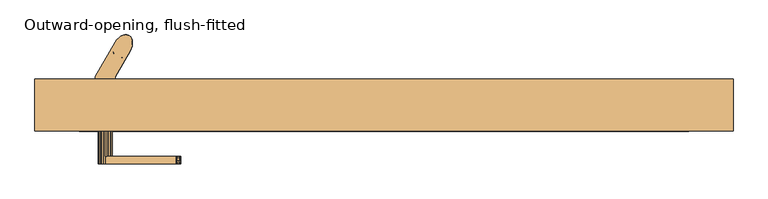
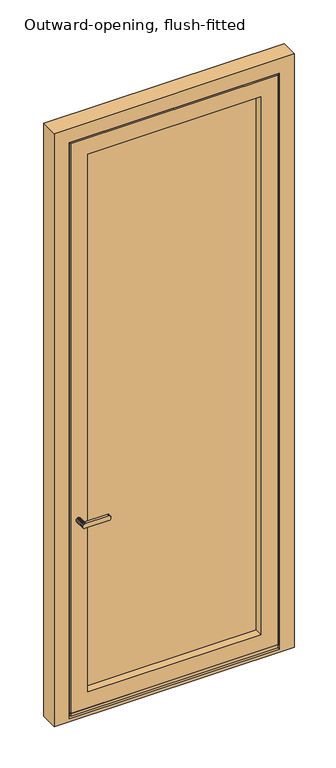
"""IFC4 building model written with IfcOpenShell, lengths in millimetres: door geometry, Outward-opening, flush-fitted."""

from ifc_helpers import new_model, si_unit, frame, origin, place, context, project, spatial, polyline, outline, extrude, faceted_brep, source, transform, mapped, element, save


def outward_opening_flush_fitted_95bfba12(model_context):
    return source(origin(), model_context, "Body", "SolidModel", [
        faceted_brep([(104.0438995, 600.0, 3143.5), (104.0438995, 604.0, 3143.5), (137.9561005, 604.0, 3143.5), (137.9561005, 600.0, 3143.5), (104.0438995, 604.0, 3173.5), (137.9561005, 604.0, 3173.5), (137.9561005, 604.0, 3177.5), (137.9561005, 600.0, 3177.5), (104.0438995, 600.0, 3177.5), (104.0438995, 604.0, 3177.5), (138.2706335, 663.2824248, 3173.5), (140.9909342, 667.257783, 3173.5), (144.212515, 670.6656309, 3173.5), (147.7738322, 673.3350848, 3173.5), (151.4963068, 675.1322872, 3173.5), (155.1932781, 675.9671188, 3173.5), (158.6793647, 675.7977178, 3173.5), (161.7797595, 674.6325784, 3173.5), (164.3389959, 672.5301259, 3173.5), (166.2287431, 669.5957857, 3173.5), (167.3542412, 665.9766982, 3173.5), (167.6590531, 661.8543393, 3173.5), (167.1278941, 657.4354214, 3173.5), (165.787399, 652.9415275, 3173.5), (163.7047856, 648.5980002, 3173.5), (164.3389959, 672.5301259, 3177.5), (161.7797595, 674.6325784, 3177.5), (158.6793647, 675.7977178, 3177.5), (155.1932781, 675.9671188, 3177.5), (151.4963068, 675.1322872, 3177.5), (147.7738322, 673.3350848, 3177.5), (144.212515, 670.6656309, 3177.5), (140.9909342, 667.257783, 3177.5), (138.2706335, 663.2824248, 3177.5), (163.7047856, 648.5980002, 3177.5), (165.787399, 652.9415275, 3177.5), (167.1278941, 657.4354214, 3177.5), (167.6590531, 661.8543393, 3177.5), (167.3542412, 665.9766982, 3177.5), (166.2287431, 669.5957857, 3177.5), (138.2706335, 663.2824248, 3175.9099144), (163.7047856, 648.5980002, 3175.0900851), (165.3743297, 671.1586458, 3175.5), (153.3597081, 675.6737838, 3175.5), (167.6445577, 661.4468931, 3175.5)], [[[0, 1, 2, 3]], [[2, 1, 4, 5]], [[3, 2, 5, 6, 7]], [[0, 3, 7, 8]], [[1, 0, 8, 9, 4]], [[5, 4, 10, 11, 12, 13, 14, 15, 16, 17, 18, 19, 20, 21, 22, 23, 24]], [[25, 26, 27, 28, 29, 30, 31, 32, 33, 9, 8, 7, 6, 34, 35, 36, 37, 38, 39]], [[4, 9, 33, 40, 10]], [[5, 24, 41, 34, 6]], [[40, 33, 32]], [[11, 10, 40]], [[39, 42, 25]], [[43, 12, 40]], [[40, 12, 11]], [[43, 15, 14]], [[30, 43, 31]], [[28, 43, 29]], [[17, 16, 43]], [[41, 24, 23]], [[35, 34, 41]], [[13, 43, 14]], [[32, 31, 40]], [[16, 15, 43]], [[20, 19, 42]], [[13, 12, 43]], [[35, 41, 44]], [[30, 29, 43]], [[28, 27, 43]], [[40, 31, 43]], [[26, 43, 27]], [[17, 43, 42]], [[19, 18, 42]], [[20, 44, 21]], [[23, 22, 41]], [[22, 44, 41]], [[21, 44, 22]], [[44, 36, 35]], [[42, 43, 26]], [[17, 42, 18]], [[42, 26, 25]], [[38, 42, 39]], [[44, 42, 38]], [[20, 42, 44]], [[38, 37, 44]], [[37, 36, 44]]]),
        faceted_brep([(112.5227579, 510.0, 1208.4772421), (115.0056846, 510.0, 1210.3824588), (117.897114, 510.0, 1211.5801281), (121.0, 510.0, 1211.9886308), (124.102886, 510.0, 1211.5801281), (126.9943154, 510.0, 1210.3824588), (129.4772421, 510.0, 1208.4772421), (131.3824588, 510.0, 1205.9943154), (132.5801281, 510.0, 1203.102886), (132.9886308, 510.0, 1200.0), (132.5801281, 510.0, 1196.897114), (131.3824588, 510.0, 1194.0056846), (129.4772421, 510.0, 1191.5227579), (126.9943154, 510.0, 1189.6175412), (124.102886, 510.0, 1188.4198719), (121.0, 510.0, 1188.0113692), (117.897114, 510.0, 1188.4198719), (115.0056846, 510.0, 1189.6175412), (112.5227579, 510.0, 1191.5227579), (110.6175412, 510.0, 1194.0056846), (109.4198719, 510.0, 1196.897114), (109.0113692, 510.0, 1200.0), (109.4198719, 510.0, 1203.102886), (110.6175412, 510.0, 1205.9943154), (124.102886, 466.5001175, 1188.4198719), (121.0, 466.5001175, 1188.0113692), (126.9943154, 466.5001175, 1189.6175412), (131.3824588, 466.5001175, 1194.0056846), (129.4772421, 466.5001175, 1191.5227579), (132.5801281, 466.5001175, 1196.897114), (132.9886308, 466.5001175, 1200.0), (132.5801281, 466.5001175, 1203.102886), (131.3824588, 466.5001175, 1205.9943154), (126.9943154, 466.5001175, 1210.3824588), (129.4772421, 466.5001175, 1208.4772421), (124.102886, 466.5001175, 1211.5801281), (121.0, 466.5001175, 1211.9886308), (117.897114, 454.0000305, 1211.5801281), (121.0, 454.0000305, 1211.9886308), (115.0056846, 454.0000305, 1210.3824588), (110.6175412, 454.0000305, 1205.9943154), (112.5227579, 454.0000305, 1208.4772421), (109.4198719, 454.0000305, 1203.102886), (109.0113692, 454.0000305, 1200.0), (109.4198719, 454.0000305, 1196.897114), (110.6175412, 454.0000305, 1194.0056846), (115.0056846, 454.0000305, 1189.6175412), (112.5227579, 454.0000305, 1191.5227579), (117.897114, 454.0000305, 1188.4198719), (121.0, 454.0000305, 1188.0113692), (242.6617926, 454.0000305, 1188.0113692), (244.2039971, 454.0000305, 1188.2417274), (245.6869356, 454.0000305, 1188.9239494), (247.0536195, 454.0000305, 1190.0318178), (248.2515279, 454.0000305, 1191.5227579), (249.234626, 454.0000305, 1193.3394736), (249.9651338, 454.0000305, 1195.4121496), (250.4149782, 454.0000305, 1197.6611342), (250.5668721, 454.0000305, 1200.0), (250.4149782, 454.0000305, 1202.3388658), (249.9651338, 454.0000305, 1204.5878504), (249.234626, 454.0000305, 1206.6605264), (248.2515279, 454.0000305, 1208.4772421), (247.0536195, 454.0000305, 1209.9681822), (245.6869356, 454.0000305, 1211.0760506), (244.2039971, 454.0000305, 1211.7582726), (242.6617926, 454.0000305, 1211.9886308), (249.9651338, 466.5001175, 1195.4121496), (249.234626, 466.5001175, 1193.3394736), (248.2515279, 466.5001175, 1191.5227579), (247.0536195, 466.5001175, 1190.0318178), (245.6869356, 466.5001175, 1188.9239494), (244.2039971, 466.5001175, 1188.2417274), (242.6617926, 466.5001175, 1188.0113692), (242.6617926, 466.5001175, 1211.9886308), (244.2039971, 466.5001175, 1211.7582726), (245.6869356, 466.5001175, 1211.0760506), (247.0536195, 466.5001175, 1209.9681822), (248.2515279, 466.5001175, 1208.4772421), (249.234626, 466.5001175, 1206.6605264), (249.9651338, 466.5001175, 1204.5878504), (250.4149782, 466.5001175, 1202.3388658), (250.5668721, 466.5001175, 1200.0), (250.4149782, 466.5001175, 1197.6611342), (242.6617926, 461.0756599, 1188.0113692), (246.3882212, 460.2500761, 1189.4269715), (248.7725017, 460.2500743, 1192.3944932), (250.226482, 460.250074, 1196.5198842), (249.6334503, 460.250074, 1205.6514014), (250.528807, 460.2500741, 1201.1750915), (244.9565161, 460.250074, 1211.4724044), (247.676722, 460.250074, 1209.2673369), (242.6617926, 460.250074, 1211.9886308)], [[[0, 1, 2, 3, 4, 5, 6, 7, 8, 9, 10, 11, 12, 13, 14, 15, 16, 17, 18, 19, 20, 21, 22, 23]], [[14, 24, 25, 15]], [[13, 26, 24, 14]], [[27, 28, 12, 11]], [[13, 12, 28, 26]], [[29, 27, 11, 10]], [[30, 29, 10, 9]], [[8, 31, 30, 9]], [[7, 32, 31, 8]], [[33, 34, 6, 5]], [[7, 6, 34, 32]], [[35, 33, 5, 4]], [[36, 35, 4, 3]], [[2, 37, 38, 36, 3]], [[1, 39, 37, 2]], [[23, 40, 41, 0]], [[1, 0, 41, 39]], [[22, 42, 40, 23]], [[21, 43, 42, 22]], [[20, 44, 43, 21]], [[19, 45, 44, 20]], [[17, 46, 47, 18]], [[19, 18, 47, 45]], [[16, 48, 46, 17]], [[25, 49, 48, 16, 15]], [[45, 47, 46, 48, 49, 50, 51, 52, 53, 54, 55, 56, 57, 58, 59, 60, 61, 62, 63, 64, 65, 66, 38, 37, 39, 41, 40, 42, 43, 44]], [[67, 68, 69, 70, 71, 72, 73, 25, 24, 26, 28, 27, 29, 30, 31, 32, 34, 33, 35, 36, 74, 75, 76, 77, 78, 79, 80, 81, 82, 83]], [[49, 25, 73, 84, 50]], [[85, 52, 51]], [[53, 85, 86]], [[67, 87, 68]], [[69, 86, 70]], [[80, 88, 81]], [[72, 85, 84]], [[57, 56, 87]], [[60, 59, 89]], [[86, 87, 56]], [[76, 90, 91, 77]], [[86, 55, 54]], [[79, 78, 91, 88]], [[58, 87, 89]], [[70, 85, 71]], [[84, 73, 72]], [[50, 84, 51]], [[85, 72, 71]], [[58, 57, 87]], [[52, 85, 53]], [[86, 56, 55]], [[86, 54, 53]], [[68, 86, 69]], [[86, 85, 70]], [[74, 92, 75]], [[92, 66, 65]], [[62, 61, 88, 91]], [[87, 86, 68]], [[85, 51, 84]], [[87, 67, 83]], [[91, 90, 64, 63]], [[89, 87, 83]], [[61, 60, 88]], [[89, 88, 60]], [[90, 65, 64]], [[63, 62, 91]], [[89, 83, 82]], [[81, 89, 82]], [[88, 89, 81]], [[79, 88, 80]], [[90, 92, 65]], [[78, 77, 91]], [[75, 90, 76]], [[75, 92, 90]], [[59, 58, 89]], [[38, 66, 92, 74, 36]]]),
        extrude(outline(polyline([(153.0, 589.0), (1047.0, 589.0), (1047.0, 551.0), (153.0, 551.0), (153.0, 589.0)])), frame((0.0, 0.0, 260.0), z_axis=(0.0, 0.0, 1.0), x_axis=(1.0, 0.0, 0.0)), (0.0, 0.0, 1.0), 2867.0),
        extrude(outline(polyline([(83.0, 510.0), (83.0, 518.3), (1117.0, 518.3), (1117.0, 510.0), (83.0, 510.0)])), frame((0.0, 0.0, 176.0), z_axis=(0.0, 0.0, 1.0), x_axis=(1.0, 0.0, 0.0)), (0.0, 0.0, 1.0), 14.0),
        faceted_brep([(71.5, 518.3, 3208.5), (71.5, 591.7, 3208.5), (71.5, 591.7, 178.5), (71.5, 518.3, 178.5), (51.0, 591.7, 3229.0), (51.0, 591.7, 158.0), (1149.0, 591.7, 158.0), (1149.0, 591.7, 3229.0), (1128.5, 591.7, 3208.5), (1128.5, 591.7, 178.5), (1128.5, 518.3, 178.5), (1128.5, 518.3, 3208.5), (1117.0, 518.3, 3197.0), (1117.0, 518.3, 190.0), (83.0, 518.3, 190.0), (83.0, 518.3, 3197.0), (83.0, 510.0, 3197.0), (83.0, 510.0, 190.0), (1117.0, 510.0, 190.0), (1117.0, 510.0, 3197.0), (1031.9999695, 510.0, 3111.9999695), (1031.9999695, 510.0, 275.0000305), (168.0000305, 510.0, 275.0000305), (168.0000305, 510.0, 3111.9999695), (168.0000305, 551.0, 3111.9999695), (168.0000305, 551.0, 275.0000305), (1031.9999695, 551.0, 275.0000305), (1047.0, 551.0, 3127.0), (1047.0, 551.0, 260.0), (153.0, 551.0, 260.0), (153.0, 551.0, 3127.0), (1031.9999695, 551.0, 3111.9999695), (153.0, 589.0, 3127.0), (153.0, 589.0, 260.0), (1047.0, 589.0, 260.0), (1047.0, 589.0, 3127.0), (1030.0, 589.0, 3110.0), (1030.0, 589.0, 277.0), (170.0, 589.0, 277.0), (170.0, 589.0, 3110.0), (170.0, 600.0, 3110.0), (170.0, 600.0, 277.0), (1030.0, 600.0, 277.0), (1149.0, 600.0, 3229.0), (1149.0, 600.0, 158.0), (51.0, 600.0, 158.0), (51.0, 600.0, 3229.0), (1030.0, 600.0, 3110.0)], [[[0, 1, 2, 3]], [[4, 5, 6, 7], [8, 9, 2, 1]], [[3, 2, 9, 10]], [[0, 3, 10, 11], [12, 13, 14, 15]], [[16, 15, 14, 17]], [[17, 14, 13, 18]], [[16, 17, 18, 19], [20, 21, 22, 23]], [[24, 23, 22, 25]], [[25, 22, 21, 26]], [[27, 28, 29, 30], [24, 25, 26, 31]], [[32, 30, 29, 33]], [[33, 29, 28, 34]], [[32, 33, 34, 35], [36, 37, 38, 39]], [[40, 39, 38, 41]], [[41, 38, 37, 42]], [[43, 44, 45, 46], [40, 41, 42, 47]], [[4, 46, 45, 5]], [[5, 45, 44, 6]], [[10, 9, 8, 11]], [[18, 13, 12, 19]], [[26, 21, 20, 31]], [[34, 28, 27, 35]], [[42, 37, 36, 47]], [[6, 44, 43, 7]], [[11, 8, 1, 0]], [[19, 12, 15, 16]], [[31, 20, 23, 24]], [[35, 27, 30, 32]], [[47, 36, 39, 40]], [[7, 43, 46, 4]]]),
        faceted_brep([(166.2287431, 669.5957857, 3173.5), (164.3389959, 672.5301259, 3173.5), (161.7797595, 674.6325784, 3173.5), (158.6793647, 675.7977178, 3173.5), (155.1932781, 675.9671188, 3173.5), (151.4963068, 675.1322872, 3173.5), (147.7738322, 673.3350848, 3173.5), (144.212515, 670.6656309, 3173.5), (140.9909342, 667.257783, 3173.5), (138.2706335, 663.2824248, 3173.5), (136.1880202, 658.9388975, 3173.5), (134.847525, 654.4450036, 3173.5), (134.3163661, 650.0260857, 3173.5), (134.6211779, 645.9037268, 3173.5), (135.7466761, 642.2846393, 3173.5), (137.6364232, 639.3502991, 3173.5), (140.1956596, 637.2478466, 3173.5), (143.2960545, 636.0827073, 3173.5), (146.7821411, 635.9133062, 3173.5), (150.4791124, 636.7481378, 3173.5), (154.2015869, 638.5453402, 3173.5), (157.7629042, 641.2147941, 3173.5), (160.9844849, 644.622642, 3173.5), (163.7047856, 648.5980002, 3173.5), (165.787399, 652.9415275, 3173.5), (167.1278941, 657.4354214, 3173.5), (167.6590531, 661.8543393, 3173.5), (167.3542412, 665.9766982, 3173.5), (143.2960545, 636.0827073, 213.5), (140.1956596, 637.2478466, 213.5), (137.6364232, 639.3502991, 213.5), (135.7466761, 642.2846393, 213.5), (134.6211779, 645.9037268, 213.5), (134.3163661, 650.0260857, 213.5), (134.847525, 654.4450036, 213.5), (136.1880202, 658.9388975, 213.5), (138.2706335, 663.2824248, 213.5), (140.9909342, 667.257783, 213.5), (144.212515, 670.6656309, 213.5), (147.7738322, 673.3350848, 213.5), (151.4963068, 675.1322872, 213.5), (155.1932781, 675.9671188, 213.5), (158.6793647, 675.7977178, 213.5), (161.7797595, 674.6325784, 213.5), (164.3389959, 672.5301259, 213.5), (166.2287431, 669.5957857, 213.5), (167.3542412, 665.9766982, 213.5), (167.6590531, 661.8543393, 213.5), (167.1278941, 657.4354214, 213.5), (165.787399, 652.9415275, 213.5), (163.7047856, 648.5980002, 213.5), (160.9844849, 644.622642, 213.5), (157.7629042, 641.2147941, 213.5), (154.2015869, 638.5453402, 213.5), (150.4791124, 636.7481378, 213.5), (146.7821411, 635.9133062, 213.5), (161.5500442, 674.7611995, 3109.7202739), (166.8914925, 667.8611962, 306.4622832), (163.7047856, 648.5980002, 305.882384), (153.359707, 675.6737836, 3080.5377144), (153.3597056, 675.6737832, 297.5878259), (160.288042, 675.3371112, 368.3639702), (148.2749555, 673.633364, 369.6983238), (154.7379336, 675.9171769, 447.5991387), (148.9312514, 673.9970291, 1923.1622134), (160.8477063, 675.1075509, 1878.9479538), (149.4746887, 674.2753443, 1829.1061855), (166.4154152, 669.1711125, 2941.5941552), (163.1357621, 673.6929778, 3018.6360152), (167.6668092, 662.4374691, 3017.3016839), (163.7047856, 648.5980002, 3081.117616), (138.2706335, 663.2824248, 3081.1176142), (138.2706335, 663.2824248, 305.8823858), (150.8801608, 674.9007366, 2991.9159098), (163.7047856, 648.5980002, 398.264768), (167.4617857, 665.3273204, 395.0841039), (162.0060067, 674.4979492, 277.27972), (150.6001748, 674.7869455, 1361.207705), (162.2203303, 674.3627966, 1415.6471907), (163.023847, 673.7836018, 1319.9077775), (159.9504132, 675.4572952, 528.0009637), (164.8427731, 671.9165369, 460.8307156), (149.33436, 674.2054407, 2664.1031244), (138.2706335, 663.2824248, 2710.4119208), (149.3472504, 674.2119189, 2756.8613183), (166.8914918, 667.8611986, 3089.4121677), (161.8435923, 674.5954092, 1600.8824188), (167.6551643, 663.1422464, 1651.9272043), (167.6145429, 663.9196575, 1554.573611), (138.2706335, 663.2824248, 2988.7352283), (149.7607429, 674.4136252, 2849.455968), (138.2706335, 663.2824248, 2803.0295332), (138.2706335, 663.2824248, 2803.9704641), (138.2706335, 663.2824248, 2895.8823837), (160.3194564, 675.3252466, 769.1927828), (167.6316062, 663.6570795, 813.9855457), (167.6508223, 661.5987754, 721.6031625), (149.4594893, 674.2678387, 2570.094555), (161.3258351, 674.8792339, 2617.7675376), (167.6423651, 663.4557225, 2295.5145235), (162.4638748, 674.1997646, 2341.8233312), (167.6423651, 663.4557224, 2388.1321376), (161.325835, 674.879234, 2710.4119319), (163.7047856, 648.5980002, 860.1766878), (167.658226, 663.04303, 900.9287605), (163.7047856, 648.5980002, 952.5590718), (163.7047856, 648.5980002, 2249.2056961), (167.6207347, 663.8303552, 2201.0537221), (162.0319523, 674.4819893, 1788.9182175), (162.9447331, 673.8461042, 1694.8280712), (150.5069092, 674.7478511, 1732.6163357), (161.7156535, 674.6692748, 2525.1767042), (167.6464254, 663.3680714, 2573.0145176), (167.6136314, 663.9323319, 2480.6321356), (161.0853776, 674.9979308, 1134.754917), (149.0777018, 674.0740541, 1093.585659), (149.42851, 674.2524913, 1183.5150777), (163.7047856, 648.5980002, 1600.882384), (163.7047856, 648.5980002, 1599.2357556), (163.7047856, 648.5980002, 1508.264768), (167.6325405, 663.6409754, 1461.9559969), (167.5490822, 664.6447667, 1925.0440673), (167.6323711, 663.6439126, 1832.4264532), (167.5783602, 664.3567772, 2664.0897353), (163.7047856, 648.5980002, 2434.4409282), (163.7047856, 648.5980002, 2432.5590722), (163.7047856, 648.5980002, 2341.8233122), (150.4665288, 674.7307401, 2384.8851606), (161.8406655, 674.5971273, 2433.4275348), (160.6772226, 675.1816353, 1969.471021), (148.5084637, 673.7662363, 1645.4269877), (138.2706335, 663.2824248, 1969.4709989), (149.1346464, 674.1036002, 2017.9320828), (158.202379, 675.8834207, 2930.7084554), (163.2384988, 673.6074467, 2864.0921725), (138.2706335, 663.2824248, 1599.2357643), (138.2706335, 663.2824248, 1600.882384), (138.2706335, 663.2824248, 1691.6181502), (149.5910481, 674.3322747, 1457.4592045), (150.7651092, 674.854626, 1272.1664524), (138.2706335, 663.2824248, 1229.7062326), (138.2706335, 663.2824248, 1230.4119199), (138.2706335, 663.2824248, 1322.0886126), (161.8139395, 674.6127544, 1224.4782647), (167.6312245, 663.6635968, 1184.1031546), (167.6592426, 663.0061998, 1739.8088391), (163.7047856, 648.5980002, 1786.117616), (163.7047856, 648.5980002, 1784.2357596), (163.7047856, 648.5980002, 1693.5), (138.2706335, 663.2824248, 1876.8533807), (138.2706335, 663.2824248, 1878.735232), (149.836699, 674.4493953, 2476.0712384), (162.4007504, 674.2430151, 2250.0419288), (138.2706335, 663.2824248, 2339.9414598), (138.2706335, 663.2824248, 2341.8233122), (138.2706335, 663.2824248, 2432.5590722), (163.7047856, 648.5980002, 2711.5880801), (167.5559469, 664.5809697, 2760.2029636), (161.7517709, 674.6486774, 1508.2251806), (149.3575759, 674.2170997, 2201.0150551), (161.7143348, 674.6700231, 2156.5881032), (149.331828, 674.2041669, 2108.3974412), (161.3844164, 674.8490917, 2062.9662927), (167.5760741, 664.3809152, 2106.5480553), (167.468664, 665.2800512, 2015.8333542), (163.7047856, 648.5980002, 767.7943039), (148.8449658, 673.9509461, 1008.1234025), (138.2706335, 663.2824248, 1044.9414609), (167.6031366, 660.7531606, 461.1498017), (163.7047856, 648.5980002, 490.6471519), (163.7047856, 648.5980002, 583.0295359), (167.5919921, 664.2055472, 536.8383937), (167.6424952, 663.4530358, 627.5817946), (163.8603882, 673.0377675, 689.6168276), (154.6770888, 675.9093372, 619.4560475), (150.0582356, 674.5514578, 713.3140472), (163.7047856, 648.5980002, 1137.7943039), (167.5868578, 664.2640699, 1085.3241351), (167.6628611, 662.8487196, 1276.7207687), (144.3533947, 670.7909707, 444.4560006), (138.2706335, 663.2824248, 398.2647717), (138.2706335, 663.2824248, 490.6471575), (138.2706335, 663.2824248, 952.5590751), (147.9608862, 673.4485303, 906.3679313), (138.2706335, 663.2824248, 860.1766892), (163.7451887, 673.1504562, 621.8958332), (163.7047856, 648.5980002, 675.4119199), (161.7797594, 674.6325785, 853.4847613), (149.3487748, 674.2126842, 813.9855493), (147.0775459, 672.8904181, 2924.3179136), (138.2706335, 663.2824248, 2896.3528481), (160.2942739, 675.3347669, 2788.9717797), (163.7047856, 648.5980002, 2988.735232), (163.7047856, 648.5980002, 2896.3528481), (167.1636374, 657.6084454, 2942.5440454), (138.2706335, 663.2824248, 2617.7943027), (138.2706335, 663.2824248, 2619.2056961), (138.2706335, 663.2824248, 2711.5880801), (138.2706335, 663.2824248, 2434.4409282), (138.2706335, 663.2824248, 2525.1766845), (163.7047856, 648.5980002, 2526.8233122), (163.7047856, 648.5980002, 2525.1766874), (163.7047856, 648.5980002, 2803.9704641), (163.7047856, 648.5980002, 2803.0295332), (150.1684803, 674.6009922, 2293.632669), (138.2706335, 663.2824248, 2154.7062235), (138.2706335, 663.2824248, 2247.3238417), (138.2706335, 663.2824248, 2249.2056961), (163.7047856, 648.5980002, 2619.2056961), (163.7047856, 648.5980002, 2617.7943027), (138.2706335, 663.2824248, 2526.8233122), (163.7047856, 648.5980002, 2710.4119179), (163.7047856, 648.5980002, 2339.941457), (163.7047856, 648.5980002, 2156.5880801), (163.7047856, 648.5980002, 1971.3528481), (163.7047856, 648.5980002, 1969.470996), (163.7047856, 648.5980002, 1878.735232), (163.7047856, 648.5980002, 2063.9704641), (163.7047856, 648.5980002, 2062.0886112), (138.2706335, 663.2824248, 2156.5880801), (138.2706335, 663.2824248, 2062.0886112), (138.2706335, 663.2824248, 2063.9704641), (163.7047856, 648.5980002, 2154.7062265), (163.7047856, 648.5980002, 2247.3238417), (138.2706335, 663.2824248, 1971.3528481), (138.2706335, 663.2824248, 1693.5), (138.2706335, 663.2824248, 1784.2357625), (138.2706335, 663.2824248, 1786.117616), (138.2706335, 663.2824248, 1506.8533785), (149.7431585, 674.4052876, 1553.0446058), (138.2706335, 663.2824248, 1508.264768), (138.2706335, 663.2824248, 1323.0295359), (138.2706335, 663.2824248, 1414.4709926), (138.2706335, 663.2824248, 1137.3238468), (138.2706335, 663.2824248, 1137.7943039), (163.7047856, 648.5980002, 1230.4119199), (163.7047856, 648.5980002, 1229.7062239), (167.6439583, 663.4222865, 1371.4406735), (163.7047856, 648.5980002, 1323.0295359), (163.7047856, 648.5980002, 1322.0886068), (160.5351075, 675.2405737, 1044.9415053), (167.3603367, 665.9435278, 986.3205896), (163.7047856, 648.5980002, 1045.1766878), (159.3569507, 675.6374177, 948.5095776), (163.7047856, 648.5980002, 1876.8533807), (163.7047856, 648.5980002, 1415.6471519), (163.7047856, 648.5980002, 1414.4709898), (163.7047856, 648.5980002, 1506.8533727), (138.2706335, 663.2824248, 1415.6471519), (138.2706335, 663.2824248, 1045.1766878), (138.2706335, 663.2824248, 767.7943034), (138.2706335, 663.2824248, 583.0295375), (138.2706335, 663.2824248, 675.4119175), (144.3750487, 670.8100799, 629.2207827), (163.7047856, 648.5980002, 1691.6181444), (147.4206457, 673.1139705, 536.8383992), (163.7047856, 648.5980002, 1044.9414581), (163.7047856, 648.5980002, 1137.323841), (167.6533368, 661.6679399, 2850.1616636), (163.7047856, 648.5980002, 2895.8823807), (140.425375, 637.1192255, 3109.7202739), (135.0839266, 644.0192288, 306.4622832), (148.6157121, 636.2066414, 3080.5377144), (148.6157135, 636.2066418, 297.5878259), (141.6873772, 636.5433138, 368.3639702), (153.7004637, 638.247061, 369.6983238), (147.2374855, 635.9632481, 447.5991387), (141.2981965, 636.6987897, 1969.471021), (153.0441677, 637.8833959, 1923.1622134), (152.8407727, 637.7768248, 2017.9320828), (135.560004, 642.7093125, 2941.5941552), (138.839657, 638.1874472, 3018.6360152), (134.3086099, 649.4429559, 3017.3016839), (151.0952583, 636.9796884, 2991.9159098), (134.5136334, 646.5531046, 395.0841039), (139.9694124, 637.3824758, 277.27972), (151.3752444, 637.0934795, 1361.207705), (139.7550888, 637.5176284, 1415.6471907), (138.9515721, 638.0968232, 1319.9077775), (142.025006, 636.4231298, 528.0009637), (137.132646, 639.9638881, 460.8307156), (152.6410592, 637.6749843, 2664.1031244), (152.6281687, 637.6685061, 2756.8613183), (135.0839274, 644.0192264, 3089.4121677), (140.1318269, 637.2850158, 1600.8824188), (134.3202548, 648.7381786, 1651.9272043), (134.3608763, 647.9607675, 1554.573611), (152.2146762, 637.4667998, 2849.455968), (141.6559628, 636.5551785, 769.1927828), (134.3438129, 648.2233455, 813.9855457), (134.3245969, 650.2816496, 721.6031625), (152.5159298, 637.6125863, 2570.094555), (140.649584, 637.0011911, 2617.7675376), (134.333054, 648.4247025, 2295.5145235), (139.5115443, 637.6806604, 2341.8233312), (134.333054, 648.4247026, 2388.1321376), (140.6495841, 637.001191, 2710.4119319), (134.3171931, 648.837395, 900.9287605), (134.3546845, 648.0500698, 2201.0537221), (139.9434669, 637.3984357, 1788.9182175), (139.030686, 638.0343208, 1694.8280712), (151.4685099, 637.1325739, 1732.6163357), (140.2597656, 637.2111502, 2525.1767042), (134.3289937, 648.5123536, 2573.0145176), (134.3617877, 647.9480931, 2480.6321356), (140.8900416, 636.8824942, 1134.754917), (152.8977174, 637.8063709, 1093.585659), (152.5469091, 637.6279337, 1183.5150777), (134.3428786, 648.2394496, 1461.9559969), (134.4263369, 647.2356583, 1925.0440673), (134.3430481, 648.2365124, 1832.4264532), (141.1277128, 636.7728741, 1878.9479538), (134.397059, 647.5236478, 2664.0897353), (151.5088904, 637.1496849, 2384.8851606), (140.1347536, 637.2832977, 2433.4275348), (152.5007304, 637.6050807, 1829.1061855), (153.4669554, 638.1141887, 1645.4269877), (143.7730402, 635.9970043, 2930.7084554), (138.7369203, 638.2729783, 2864.0921725), (152.3843711, 637.5481503, 1457.4592045), (151.2103099, 637.025799, 1272.1664524), (140.1614797, 637.2676706, 1224.4782647), (134.3441947, 648.2168282, 1184.1031546), (134.3161766, 648.8742252, 1739.8088391), (152.1387201, 637.4310297, 2476.0712384), (139.5746687, 637.6374099, 2250.0419288), (134.4194722, 647.2994553, 2760.2029636), (140.2236482, 637.2317476, 1508.2251806), (152.6178432, 637.6633253, 2201.0150551), (140.2610843, 637.2104019, 2156.5881032), (152.6435911, 637.6762581, 2108.3974412), (140.5910028, 637.0313333, 2062.9662927), (134.3993451, 647.4995098, 2106.5480553), (134.5067551, 646.6003738, 2015.8333542), (153.1304533, 637.9294789, 1008.1234025), (134.3722825, 651.1272644, 461.1498017), (134.383427, 647.6748778, 536.8383937), (134.332924, 648.4273892, 627.5817946), (138.1150309, 638.8426575, 689.6168276), (147.2983304, 635.9710878, 619.4560475), (151.9171836, 637.3289672, 713.3140472), (134.3885613, 647.6163551, 1085.3241351), (134.312558, 649.0317054, 1276.7207687), (157.6220244, 641.0894543, 444.4560006), (154.014533, 638.4318947, 906.3679313), (138.2302305, 638.7299688, 621.8958332), (140.1956597, 637.2478465, 853.4847613), (152.6266443, 637.6677408, 813.9855493), (154.8978732, 638.9900069, 2924.3179136), (141.6811452, 636.5456581, 2788.9717797), (134.8117817, 654.2719797, 2942.5440454), (151.8069388, 637.2794328, 2293.632669), (152.2322606, 637.4751374, 1553.0446058), (134.3314608, 648.4581385, 1371.4406735), (141.4403116, 636.6398513, 1044.9415053), (134.6150825, 645.9368972, 986.3205896), (142.6184684, 636.2430073, 948.5095776), (157.6003704, 641.0703451, 629.2207827), (154.5547734, 638.7664545, 536.8383992), (134.3220823, 650.2124851, 2850.1616636)], [[[0, 1, 2, 3, 4, 5, 6, 7, 8, 9, 10, 11, 12, 13, 14, 15, 16, 17, 18, 19, 20, 21, 22, 23, 24, 25, 26, 27]], [[28, 29, 30, 31, 32, 33, 34, 35, 36, 37, 38, 39, 40, 41, 42, 43, 44, 45, 46, 47, 48, 49, 50, 51, 52, 53, 54, 55]], [[2, 1, 56]], [[57, 58, 48]], [[7, 6, 59]], [[5, 4, 59]], [[38, 60, 39]], [[61, 62, 63]], [[64, 65, 66]], [[67, 68, 69]], [[40, 60, 41]], [[3, 56, 4]], [[24, 23, 70]], [[58, 50, 49]], [[71, 9, 8]], [[37, 36, 72]], [[68, 73, 59]], [[60, 40, 39]], [[74, 58, 75]], [[45, 76, 57]], [[77, 78, 79]], [[71, 8, 7]], [[63, 80, 81]], [[82, 83, 84]], [[25, 85, 26]], [[24, 70, 25]], [[86, 87, 88]], [[75, 58, 57]], [[72, 62, 60]], [[5, 59, 6]], [[89, 71, 73]], [[70, 69, 85]], [[42, 41, 76]], [[46, 57, 47]], [[90, 91, 92, 93]], [[94, 95, 96]], [[43, 42, 76]], [[97, 82, 98]], [[85, 27, 26]], [[99, 100, 101]], [[4, 56, 59]], [[68, 56, 85]], [[98, 82, 102]], [[46, 45, 57]], [[58, 49, 48]], [[76, 41, 60]], [[59, 71, 7]], [[45, 44, 76]], [[56, 1, 0]], [[75, 57, 61]], [[61, 76, 60]], [[27, 85, 0]], [[47, 57, 48]], [[37, 72, 38]], [[103, 104, 105]], [[0, 85, 56]], [[38, 72, 60]], [[73, 71, 59]], [[68, 85, 69]], [[61, 60, 62]], [[25, 70, 85]], [[99, 106, 107]], [[108, 109, 110]], [[111, 112, 113]], [[114, 115, 116]], [[88, 117, 118, 119]], [[88, 119, 120]], [[121, 122, 65]], [[123, 98, 102]], [[101, 124, 125, 126]], [[100, 127, 128]], [[129, 65, 64]], [[109, 86, 130]], [[131, 132, 64]], [[110, 66, 108]], [[133, 67, 134]], [[130, 135, 136, 137]], [[77, 138, 78]], [[139, 140, 141, 142]], [[143, 144, 114]], [[145, 146, 147, 148]], [[64, 149, 150, 131]], [[97, 111, 151]], [[100, 99, 152]], [[127, 153, 154, 155]], [[156, 123, 157]], [[78, 138, 158]], [[159, 160, 161]], [[162, 163, 164]], [[132, 161, 162]], [[103, 165, 95]], [[166, 167, 115]], [[168, 169, 74]], [[170, 171, 172]], [[173, 174, 175]], [[176, 177, 144]], [[144, 143, 178]], [[179, 180, 181]], [[170, 169, 171]], [[182, 183, 184]], [[185, 173, 172]], [[171, 168, 81]], [[186, 172, 96]], [[81, 80, 171]], [[187, 104, 95]], [[173, 175, 94]], [[188, 187, 94]], [[189, 93, 190, 89]], [[84, 90, 191]], [[102, 157, 123]], [[192, 193, 194]], [[91, 90, 84]], [[90, 189, 133]], [[133, 134, 90]], [[82, 195, 196, 83]], [[102, 84, 191]], [[84, 83, 197, 91]], [[97, 195, 82]], [[102, 82, 84]], [[151, 155, 198, 199]], [[97, 151, 199]], [[98, 111, 97]], [[112, 111, 98]], [[113, 200, 201, 124]], [[157, 202, 203, 156]], [[153, 127, 204]], [[151, 111, 128]], [[161, 205, 159]], [[204, 206, 207, 153]], [[152, 159, 204]], [[73, 68, 133]], [[134, 157, 191]], [[112, 208, 209, 200]], [[208, 112, 123]], [[128, 111, 113]], [[97, 199, 210, 195]], [[98, 123, 112]], [[112, 200, 113]], [[123, 156, 211, 208]], [[151, 128, 127]], [[99, 126, 212, 106]], [[155, 151, 127]], [[204, 127, 100]], [[100, 128, 101]], [[101, 113, 124]], [[113, 101, 128]], [[126, 99, 101]], [[107, 152, 99]], [[160, 107, 163]], [[107, 213, 163]], [[100, 152, 204]], [[152, 107, 160]], [[163, 162, 160]], [[121, 214, 215, 216]], [[164, 217, 218, 214]], [[217, 164, 163]], [[65, 129, 121]], [[204, 159, 206]], [[121, 129, 164]], [[159, 205, 219, 206]], [[161, 220, 221, 205]], [[160, 159, 152]], [[220, 161, 132]], [[160, 162, 161]], [[163, 213, 222, 217]], [[107, 106, 223, 213]], [[129, 132, 162]], [[132, 131, 224, 220]], [[66, 149, 64]], [[129, 64, 132]], [[110, 137, 225, 226]], [[66, 110, 226]], [[137, 110, 130]], [[109, 130, 110]], [[65, 108, 66]], [[122, 108, 65]], [[66, 226, 227, 149]], [[228, 229, 138]], [[229, 228, 230, 135]], [[229, 86, 158]], [[77, 142, 231, 232]], [[138, 77, 232]], [[140, 139, 116]], [[79, 139, 77]], [[233, 116, 115]], [[116, 233, 234, 140]], [[143, 116, 139]], [[144, 235, 236, 176]], [[120, 237, 78]], [[178, 235, 144]], [[178, 238, 239, 235]], [[144, 177, 114]], [[240, 177, 241]], [[177, 242, 241]], [[240, 241, 243]], [[243, 104, 187]], [[117, 88, 87]], [[122, 216, 244, 146]], [[122, 145, 108]], [[216, 122, 121]], [[109, 108, 145]], [[86, 88, 158]], [[148, 87, 145]], [[120, 158, 88]], [[229, 158, 138]], [[120, 78, 158]], [[79, 78, 237]], [[120, 245, 237]], [[237, 245, 246, 238]], [[120, 119, 247, 245]], [[178, 79, 237]], [[162, 164, 129]], [[121, 164, 214]], [[138, 232, 248, 228]], [[183, 182, 166]], [[240, 115, 114]], [[115, 167, 249, 233]], [[240, 114, 177]], [[143, 114, 116]], [[115, 240, 166]], [[188, 183, 187]], [[175, 250, 188]], [[184, 188, 250]], [[243, 187, 183]], [[251, 252, 253]], [[185, 172, 171]], [[103, 95, 104]], [[105, 104, 241]], [[94, 187, 95]], [[146, 145, 122]], [[109, 145, 87]], [[86, 109, 87]], [[87, 148, 254, 117]], [[253, 252, 175]], [[255, 253, 174]], [[130, 229, 135]], [[229, 130, 86]], [[143, 139, 79]], [[142, 77, 139]], [[238, 178, 237]], [[143, 79, 178]], [[96, 165, 186]], [[174, 173, 185]], [[186, 170, 172]], [[167, 166, 182]], [[166, 240, 243]], [[241, 242, 256, 105]], [[177, 176, 257, 242]], [[243, 241, 104]], [[181, 251, 255]], [[180, 62, 72]], [[75, 61, 81]], [[62, 179, 63]], [[255, 80, 63]], [[258, 193, 259, 202]], [[192, 69, 70]], [[202, 157, 258]], [[69, 194, 67]], [[258, 134, 67]], [[184, 183, 188]], [[243, 183, 166]], [[188, 94, 175]], [[96, 173, 94]], [[252, 250, 175]], [[63, 81, 61]], [[168, 75, 81]], [[165, 96, 95]], [[173, 96, 172]], [[194, 193, 258]], [[134, 258, 157]], [[67, 133, 68]], [[189, 73, 133]], [[73, 189, 89]], [[93, 189, 90]], [[179, 181, 255]], [[80, 255, 174]], [[75, 168, 74]], [[169, 168, 171]], [[102, 191, 157]], [[134, 191, 90]], [[43, 76, 44]], [[57, 76, 61]], [[2, 56, 3]], [[59, 56, 68]], [[185, 80, 174]], [[80, 185, 171]], [[180, 179, 62]], [[63, 179, 255]], [[192, 194, 69]], [[67, 194, 258]], [[251, 253, 255]], [[174, 253, 175]], [[16, 15, 260]], [[261, 72, 34]], [[21, 20, 262]], [[19, 18, 262]], [[52, 263, 53]], [[264, 265, 266]], [[267, 268, 269]], [[270, 271, 272]], [[54, 263, 55]], [[17, 260, 18]], [[10, 9, 71]], [[72, 36, 35]], [[70, 23, 22]], [[51, 50, 58]], [[271, 273, 262]], [[263, 54, 53]], [[180, 72, 274]], [[31, 275, 261]], [[276, 277, 278]], [[70, 22, 21]], [[266, 279, 280]], [[281, 211, 282]], [[11, 283, 12]], [[10, 71, 11]], [[284, 285, 286]], [[274, 72, 261]], [[58, 265, 263]], [[19, 262, 20]], [[192, 70, 273]], [[71, 272, 283]], [[28, 55, 275]], [[32, 261, 33]], [[287, 203, 202, 259]], [[288, 289, 290]], [[29, 28, 275]], [[291, 281, 292]], [[283, 13, 12]], [[293, 294, 295]], [[18, 260, 262]], [[271, 260, 283]], [[292, 281, 296]], [[32, 31, 261]], [[72, 35, 34]], [[275, 55, 263]], [[262, 70, 21]], [[31, 30, 275]], [[260, 15, 14]], [[274, 261, 264]], [[264, 275, 263]], [[13, 283, 14]], [[33, 261, 34]], [[51, 58, 52]], [[184, 297, 182]], [[14, 283, 260]], [[52, 58, 263]], [[273, 70, 262]], [[271, 283, 272]], [[264, 263, 265]], [[11, 71, 283]], [[293, 207, 298]], [[299, 300, 301]], [[302, 303, 304]], [[305, 306, 307]], [[286, 136, 135, 230]], [[286, 230, 308]], [[309, 310, 311]], [[312, 292, 296]], [[295, 198, 155, 154]], [[294, 313, 314]], [[299, 315, 311]], [[300, 284, 316]], [[215, 269, 268]], [[301, 315, 299]], [[317, 270, 318]], [[316, 118, 117, 254]], [[276, 319, 277]], [[320, 236, 235, 239]], [[321, 322, 305]], [[323, 227, 226, 225]], [[268, 244, 216, 215]], [[291, 302, 324]], [[294, 293, 325]], [[313, 212, 126, 125]], [[197, 312, 326]], [[277, 319, 327]], [[328, 329, 330]], [[331, 332, 333]], [[269, 330, 331]], [[184, 250, 289]], [[334, 256, 306]], [[335, 181, 180]], [[251, 336, 337]], [[338, 339, 340]], [[234, 341, 322]], [[322, 321, 342]], [[343, 74, 169]], [[251, 181, 336]], [[105, 344, 103]], [[345, 338, 337]], [[336, 335, 280]], [[252, 337, 290]], [[280, 279, 336]], [[346, 297, 289]], [[338, 340, 288]], [[347, 346, 288]], [[348, 259, 193, 192]], [[282, 287, 349]], [[296, 326, 312]], [[89, 190, 350]], [[203, 287, 282]], [[287, 348, 317]], [[317, 318, 287]], [[281, 209, 208, 211]], [[296, 282, 349]], [[282, 211, 156, 203]], [[291, 209, 281]], [[296, 281, 282]], [[324, 125, 124, 201]], [[291, 324, 201]], [[292, 302, 291]], [[303, 302, 292]], [[304, 210, 199, 198]], [[326, 92, 91, 197]], [[212, 313, 351]], [[324, 302, 314]], [[330, 222, 328]], [[351, 223, 106, 212]], [[325, 328, 351]], [[273, 271, 317]], [[318, 326, 349]], [[303, 196, 195, 210]], [[196, 303, 312]], [[314, 302, 304]], [[291, 201, 200, 209]], [[292, 312, 303]], [[303, 210, 304]], [[312, 197, 83, 196]], [[324, 314, 313]], [[293, 154, 153, 207]], [[125, 324, 313]], [[351, 313, 294]], [[294, 314, 295]], [[295, 304, 198]], [[304, 295, 314]], [[154, 293, 295]], [[298, 325, 293]], [[329, 298, 332]], [[298, 219, 332]], [[294, 325, 351]], [[325, 298, 329]], [[332, 331, 329]], [[309, 224, 131, 150]], [[333, 221, 220, 224]], [[221, 333, 332]], [[311, 267, 309]], [[351, 328, 223]], [[309, 267, 333]], [[328, 222, 213, 223]], [[330, 218, 217, 222]], [[329, 328, 325]], [[218, 330, 269]], [[329, 331, 330]], [[332, 219, 205, 221]], [[298, 207, 206, 219]], [[267, 269, 331]], [[269, 215, 214, 218]], [[244, 268, 315]], [[268, 267, 311]], [[301, 254, 148, 147]], [[315, 301, 147]], [[254, 301, 316]], [[300, 316, 301]], [[268, 311, 315]], [[310, 299, 311]], [[315, 147, 146, 244]], [[247, 352, 319]], [[352, 247, 119, 118]], [[352, 284, 327]], [[276, 239, 238, 246]], [[319, 276, 246]], [[236, 320, 307]], [[278, 320, 276]], [[257, 307, 306]], [[307, 257, 176, 236]], [[321, 307, 320]], [[322, 141, 140, 234]], [[308, 353, 277]], [[342, 141, 322]], [[342, 231, 142, 141]], [[322, 341, 305]], [[354, 341, 355]], [[341, 249, 355]], [[354, 355, 356]], [[356, 297, 346]], [[136, 286, 285]], [[310, 150, 149, 227]], [[310, 323, 299]], [[150, 310, 309]], [[300, 299, 323]], [[284, 286, 327]], [[225, 285, 323]], [[308, 327, 286]], [[352, 327, 319]], [[308, 277, 327]], [[278, 277, 353]], [[308, 248, 353]], [[353, 248, 232, 231]], [[308, 230, 228, 248]], [[342, 278, 353]], [[331, 333, 267]], [[309, 333, 224]], [[319, 246, 245, 247]], [[344, 105, 334]], [[354, 306, 305]], [[306, 256, 242, 257]], [[354, 305, 341]], [[321, 305, 307]], [[306, 354, 334]], [[347, 344, 346]], [[340, 165, 347]], [[103, 347, 165]], [[356, 346, 344]], [[170, 186, 357]], [[345, 337, 336]], [[184, 289, 297]], [[182, 297, 355]], [[288, 346, 289]], [[227, 323, 310]], [[300, 323, 285]], [[284, 300, 285]], [[285, 225, 137, 136]], [[357, 186, 340]], [[358, 357, 339]], [[316, 352, 118]], [[352, 316, 284]], [[321, 320, 278]], [[239, 276, 320]], [[231, 342, 353]], [[321, 278, 342]], [[290, 250, 252]], [[339, 338, 345]], [[252, 251, 337]], [[256, 334, 105]], [[334, 354, 356]], [[355, 249, 167, 182]], [[341, 234, 233, 249]], [[356, 355, 297]], [[169, 170, 358]], [[74, 265, 58]], [[274, 264, 280]], [[265, 343, 266]], [[358, 279, 266]], [[359, 190, 93, 92]], [[89, 272, 71]], [[92, 326, 359]], [[272, 350, 270]], [[359, 318, 270]], [[103, 344, 347]], [[356, 344, 334]], [[347, 288, 340]], [[290, 338, 288]], [[186, 165, 340]], [[266, 280, 264]], [[335, 274, 280]], [[250, 290, 289]], [[338, 290, 337]], [[350, 190, 359]], [[318, 359, 326]], [[270, 317, 271]], [[348, 273, 317]], [[273, 348, 192]], [[259, 348, 287]], [[343, 169, 358]], [[279, 358, 339]], [[274, 335, 180]], [[181, 335, 336]], [[296, 349, 326]], [[318, 349, 287]], [[29, 275, 30]], [[261, 275, 264]], [[16, 260, 17]], [[262, 260, 271]], [[345, 279, 339]], [[279, 345, 336]], [[74, 343, 265]], [[266, 343, 358]], [[89, 350, 272]], [[270, 350, 359]], [[170, 357, 358]], [[339, 357, 340]]]),
        faceted_brep([(1124.0, 510.0, 3204.0), (1124.0, 518.3, 3204.0), (1124.0, 518.3, 167.8651688), (1124.0, 510.0, 165.0072496), (76.0, 518.3, 3204.0), (76.0, 518.3, 167.8651688), (55.5, 518.3, 167.8651688), (55.5, 518.3, 3224.5), (1144.5, 518.3, 3224.5), (1144.5, 518.3, 167.8651688), (1144.5, 591.7, 3224.5), (1144.5, 591.7, 164.3), (1144.5, 532.0, 164.3), (1144.5, 532.0, 170.0), (1144.5, 524.5, 170.0), (1156.0, 599.9993365, 150.0), (1156.0, 591.7, 150.0), (1156.0, 591.7, 3236.0), (1156.0, 599.9993365, 3236.0), (1200.0, 599.9993365, 150.0), (44.0, 599.9993365, 3236.0), (44.0, 599.9993365, 150.0), (0.0, 599.9993365, 150.0), (0.0, 599.9993365, 3280.0), (1200.0, 599.9993365, 3280.0), (76.0, 510.0, 3204.0), (76.0, 510.0, 165.0072496), (44.0, 591.7, 3236.0), (44.0, 591.7, 150.0), (55.5, 591.7, 3224.5), (55.5, 524.5, 170.0), (55.5, 532.0, 170.0), (55.5, 532.0, 164.3), (55.5, 591.7, 164.3), (0.0, 510.0, 3280.0), (1200.0, 510.0, 3280.0), (1200.0, 510.0, 150.0), (0.0, 510.0, 150.0)], [[[0, 1, 2, 3]], [[1, 4, 5, 6, 7, 8, 9, 2]], [[8, 10, 11, 12, 13, 14, 9]], [[15, 16, 17, 18]], [[19, 15, 18, 20, 21, 22, 23, 24]], [[4, 25, 26, 5]], [[20, 27, 28, 21]], [[29, 7, 6, 30, 31, 32, 33]], [[25, 4, 1, 0]], [[27, 20, 18, 17]], [[23, 34, 35, 24]], [[29, 10, 8, 7]], [[19, 24, 35, 36]], [[34, 23, 22, 37]], [[37, 36, 35, 34], [3, 26, 25, 0]], [[19, 36, 37, 22, 21, 28, 16, 15]], [[14, 30, 6, 5, 26, 3, 2, 9]], [[16, 28, 27, 17], [33, 11, 10, 29]], [[11, 33, 32, 12]], [[12, 32, 31, 13]], [[13, 31, 30, 14]]]),
        faceted_brep([(137.9561005, 600.0, 243.5), (137.9561005, 604.0, 243.5), (104.0438995, 604.0, 243.5), (104.0438995, 600.0, 243.5), (137.9561005, 604.0, 213.5), (104.0438995, 604.0, 213.5), (137.9561005, 600.0, 209.5), (137.9561005, 604.0, 209.5), (104.0438995, 600.0, 209.5), (104.0438995, 604.0, 209.5), (164.3389949, 672.5301271, 213.5), (161.7797579, 674.6325794, 213.5), (158.6793625, 675.7977182, 213.5), (155.1932755, 675.9671186, 213.5), (151.4963038, 675.1322861, 213.5), (147.773829, 673.3350828, 213.5), (144.2125117, 670.6656279, 213.5), (140.9909311, 667.2577791, 213.5), (138.2706308, 663.2824201, 213.5), (163.7047856, 648.5980002, 213.5), (165.7873991, 652.9415279, 213.5), (167.1278943, 657.4354221, 213.5), (167.6590531, 661.8543403, 213.5), (167.354241, 665.9766994, 213.5), (166.2287425, 669.5957871, 213.5), (138.2706308, 663.2824201, 209.5), (140.9909311, 667.2577791, 209.5), (144.2125117, 670.6656279, 209.5), (147.773829, 673.3350828, 209.5), (151.4963038, 675.1322861, 209.5), (155.1932755, 675.9671186, 209.5), (158.6793625, 675.7977182, 209.5), (161.7797579, 674.6325794, 209.5), (164.3389949, 672.5301271, 209.5), (166.2287425, 669.5957871, 209.5), (167.354241, 665.9766994, 209.5), (167.6590531, 661.8543403, 209.5), (167.1278943, 657.4354221, 209.5), (165.7873991, 652.9415279, 209.5), (163.7047856, 648.5980002, 209.5), (138.2706308, 663.2824201, 211.9099144), (163.7047856, 648.5980002, 211.0900849), (165.3743289, 671.1586471, 211.5), (153.3597053, 675.6737832, 211.5), (167.6445577, 661.4468941, 211.5)], [[[0, 1, 2, 3]], [[4, 5, 2, 1]], [[6, 7, 4, 1, 0]], [[8, 6, 0, 3]], [[9, 8, 3, 2, 5]], [[10, 11, 12, 13, 14, 15, 16, 17, 18, 5, 4, 19, 20, 21, 22, 23, 24]], [[6, 8, 9, 25, 26, 27, 28, 29, 30, 31, 32, 33, 34, 35, 36, 37, 38, 39, 7]], [[9, 5, 18, 40, 25]], [[7, 39, 41, 19, 4]], [[40, 18, 17]], [[26, 25, 40]], [[24, 42, 10]], [[43, 27, 40]], [[40, 27, 26]], [[43, 30, 29]], [[15, 43, 16]], [[13, 43, 14]], [[32, 31, 43]], [[41, 39, 38]], [[20, 19, 41]], [[28, 43, 29]], [[17, 16, 40]], [[31, 30, 43]], [[35, 34, 42]], [[28, 27, 43]], [[20, 41, 44]], [[15, 14, 43]], [[13, 12, 43]], [[40, 16, 43]], [[11, 43, 12]], [[32, 43, 42]], [[34, 33, 42]], [[35, 44, 36]], [[38, 37, 41]], [[37, 44, 41]], [[36, 44, 37]], [[44, 21, 20]], [[42, 43, 11]], [[32, 42, 33]], [[42, 11, 10]], [[23, 42, 24]], [[44, 42, 23]], [[35, 42, 44]], [[23, 22, 44]], [[22, 21, 44]]]),
    ])


if __name__ == "__main__":
    model = new_model("IFC4")
    model_context = context("Model", 3, world=origin())
    ifc_project = project(units=[si_unit("LENGTHUNIT", "METRE", prefix="MILLI")], contexts=[model_context])
    site = spatial("IfcSite", under=ifc_project)
    building = spatial("IfcBuilding", under=site)
    placement = place(None, origin())
    outward_opening_flush_fitted_shape = outward_opening_flush_fitted_95bfba12(model_context)
    element("IfcDoor", 1, ObjectType="Outward-opening, flush-fitted", at=placement, inside=building, context=model_context, shape_type="MappedRepresentation", body=[
        mapped(outward_opening_flush_fitted_shape, transform((0.0, 0.0, 0.0), x_axis=(1.0, 0.0, 0.0), y_axis=(0.0, 1.0, 0.0), z_axis=(0.0, 0.0, 1.0))),
    ])
    save(model, "model.ifc")
